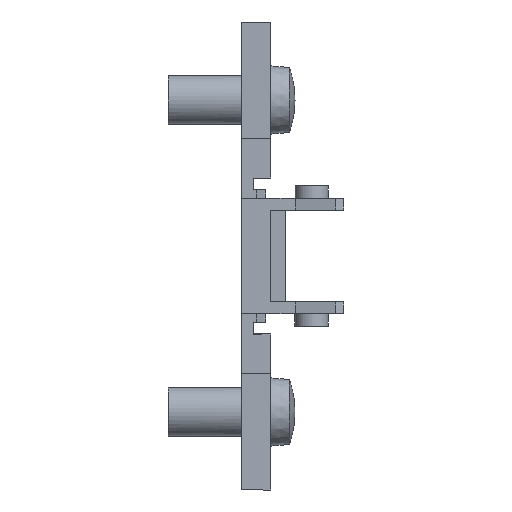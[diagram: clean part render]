
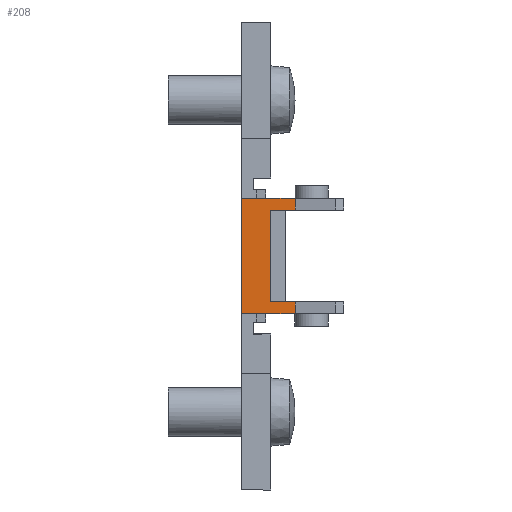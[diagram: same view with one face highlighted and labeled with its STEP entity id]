
A CAD part, front view. The second image highlights one B-rep face of the part: STEP entity #208.
In plain terms, the highlighted planar face has unit normal (0, -1, 0).
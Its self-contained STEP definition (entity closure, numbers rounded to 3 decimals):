
#208 = ADVANCED_FACE ( 'NONE', ( #1631 ), #2822, .T. ) ;
#327 = EDGE_CURVE ( 'NONE', #2543, #2544, #1777, .T. ) ;
#508 = EDGE_CURVE ( 'NONE', #2543, #2542, #1993, .T. ) ;
#588 = EDGE_CURVE ( 'NONE', #2545, #2546, #2080, .T. ) ;
#597 = AXIS2_PLACEMENT_3D ( 'NONE', #2825, #2831, #2832 ) ;
#734 = EDGE_CURVE ( 'NONE', #2544, #2545, #2133, .T. ) ;
#778 = EDGE_CURVE ( 'NONE', #2547, #2546, #2209, .T. ) ;
#830 = EDGE_CURVE ( 'NONE', #2540, #2541, #2307, .T. ) ;
#849 = EDGE_CURVE ( 'NONE', #2540, #2542, #2343, .T. ) ;
#908 = EDGE_CURVE ( 'NONE', #2541, #2547, #2445, .T. ) ;
#1003 = CARTESIAN_POINT ( 'NONE',  ( 10.5, -16.55, 5.9 ) ) ;
#1203 = DIRECTION ( 'NONE',  ( -1., 0., 0. ) ) ;
#1382 = ORIENTED_EDGE ( 'NONE', *, *, #908, .F. ) ;
#1383 = ORIENTED_EDGE ( 'NONE', *, *, #778, .F. ) ;
#1384 = ORIENTED_EDGE ( 'NONE', *, *, #588, .T. ) ;
#1385 = ORIENTED_EDGE ( 'NONE', *, *, #734, .T. ) ;
#1386 = ORIENTED_EDGE ( 'NONE', *, *, #327, .T. ) ;
#1387 = ORIENTED_EDGE ( 'NONE', *, *, #508, .F. ) ;
#1388 = ORIENTED_EDGE ( 'NONE', *, *, #849, .T. ) ;
#1389 = ORIENTED_EDGE ( 'NONE', *, *, #830, .F. ) ;
#1464 = EDGE_LOOP ( 'NONE', ( #1389, #1388, #1387, #1386, #1385, #1384, #1383, #1382 ) ) ;
#1631 = FACE_OUTER_BOUND ( 'NONE', #1464, .T. ) ;
#1774 = VECTOR ( 'NONE', #1203, 1000. ) ;
#1777 = LINE ( 'NONE', #1003, #1774 ) ;
#1989 = VECTOR ( 'NONE', #3697, 1000. ) ;
#1993 = LINE ( 'NONE', #3689, #1989 ) ;
#2080 = LINE ( 'NONE', #3818, #2093 ) ;
#2093 = VECTOR ( 'NONE', #3821, 1000. ) ;
#2127 = VECTOR ( 'NONE', #3869, 1000. ) ;
#2133 = LINE ( 'NONE', #3863, #2127 ) ;
#2209 = LINE ( 'NONE', #3965, #2210 ) ;
#2210 = VECTOR ( 'NONE', #3966, 1000. ) ;
#2307 = LINE ( 'NONE', #2972, #2308 ) ;
#2308 = VECTOR ( 'NONE', #2973, 1000. ) ;
#2343 = LINE ( 'NONE', #3014, #2344 ) ;
#2344 = VECTOR ( 'NONE', #3015, 1000. ) ;
#2445 = LINE ( 'NONE', #3143, #2446 ) ;
#2446 = VECTOR ( 'NONE', #3144, 1000. ) ;
#2540 = VERTEX_POINT ( 'NONE', #3235 ) ;
#2541 = VERTEX_POINT ( 'NONE', #3236 ) ;
#2542 = VERTEX_POINT ( 'NONE', #3237 ) ;
#2543 = VERTEX_POINT ( 'NONE', #3238 ) ;
#2544 = VERTEX_POINT ( 'NONE', #3239 ) ;
#2545 = VERTEX_POINT ( 'NONE', #3240 ) ;
#2546 = VERTEX_POINT ( 'NONE', #3241 ) ;
#2547 = VERTEX_POINT ( 'NONE', #3242 ) ;
#2822 = PLANE ( 'NONE',  #597 ) ;
#2825 = CARTESIAN_POINT ( 'NONE',  ( 10.5, -16.55, -5.9 ) ) ;
#2831 = DIRECTION ( 'NONE',  ( 0., -1., 0. ) ) ;
#2832 = DIRECTION ( 'NONE',  ( -1., 0., 0. ) ) ;
#2972 = CARTESIAN_POINT ( 'NONE',  ( 3., -16.55, -5.9 ) ) ;
#2973 = DIRECTION ( 'NONE',  ( 0., 0., -1. ) ) ;
#3014 = CARTESIAN_POINT ( 'NONE',  ( 10.5, -16.55, 4.7 ) ) ;
#3015 = DIRECTION ( 'NONE',  ( 1., 0., 0. ) ) ;
#3143 = CARTESIAN_POINT ( 'NONE',  ( 10.5, -16.55, -4.7 ) ) ;
#3144 = DIRECTION ( 'NONE',  ( 1., 0., 0. ) ) ;
#3235 = CARTESIAN_POINT ( 'NONE',  ( 3., -16.55, 4.7 ) ) ;
#3236 = CARTESIAN_POINT ( 'NONE',  ( 3., -16.55, -4.7 ) ) ;
#3237 = CARTESIAN_POINT ( 'NONE',  ( 5.523, -16.55, 4.7 ) ) ;
#3238 = CARTESIAN_POINT ( 'NONE',  ( 5.523, -16.55, 5.9 ) ) ;
#3239 = CARTESIAN_POINT ( 'NONE',  ( 0., -16.55, 5.9 ) ) ;
#3240 = CARTESIAN_POINT ( 'NONE',  ( 0., -16.55, -5.9 ) ) ;
#3241 = CARTESIAN_POINT ( 'NONE',  ( 5.523, -16.55, -5.9 ) ) ;
#3242 = CARTESIAN_POINT ( 'NONE',  ( 5.523, -16.55, -4.7 ) ) ;
#3689 = CARTESIAN_POINT ( 'NONE',  ( 5.523, -16.55, 67.733 ) ) ;
#3697 = DIRECTION ( 'NONE',  ( 0., 0., -1. ) ) ;
#3818 = CARTESIAN_POINT ( 'NONE',  ( 1.5, -16.55, -5.9 ) ) ;
#3821 = DIRECTION ( 'NONE',  ( 1., 0., 0. ) ) ;
#3863 = CARTESIAN_POINT ( 'NONE',  ( 0., -16.55, 15.37 ) ) ;
#3869 = DIRECTION ( 'NONE',  ( 0., 0., -1. ) ) ;
#3965 = CARTESIAN_POINT ( 'NONE',  ( 5.523, -16.55, 67.733 ) ) ;
#3966 = DIRECTION ( 'NONE',  ( 0., 0., -1. ) ) ;
